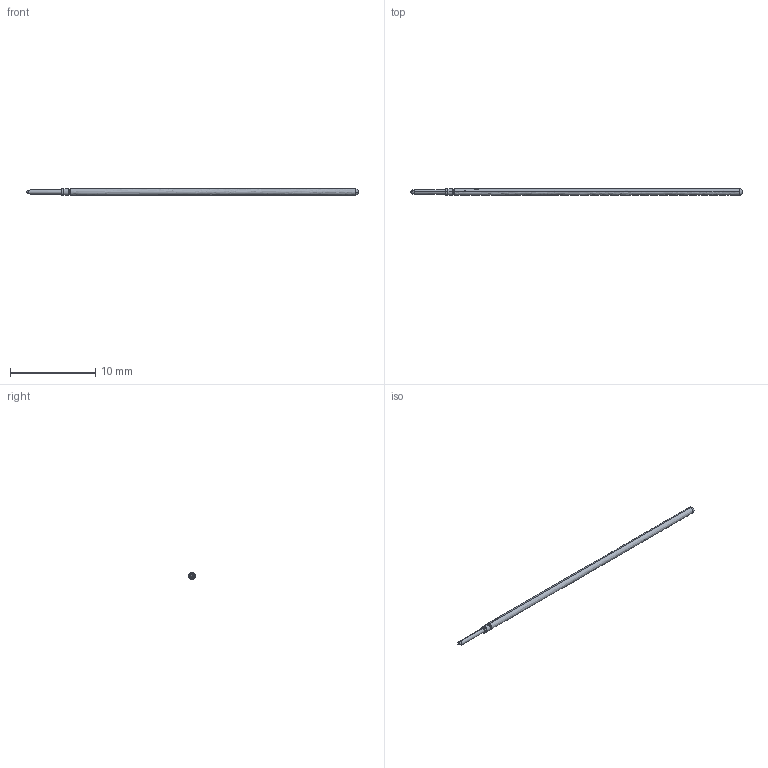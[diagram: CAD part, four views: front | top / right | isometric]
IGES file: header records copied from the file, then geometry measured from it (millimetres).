
Start section: SolidWorks IGES file using analytic representation for surfaces
Global section: file name: L:\probe solid model mockups\Solidworks models\POGO-72I8 RECD.IGS; native system: SolidWorks 2006 by SolidWorks Corporation; preprocessor: SolidWorks 2006 by SolidWorks Corporation; author: Ksnyder; date: 071211.135830; units: inch
Bounding box: 38.94 x 0.79 x 0.79 mm (x, y, z)
Surface area: 175.4 mm2
Topology: 1 solids, 1 shells, 26 faces, 56 edges, 31 vertices
Faces by surface type: revolution 16, plane 10
